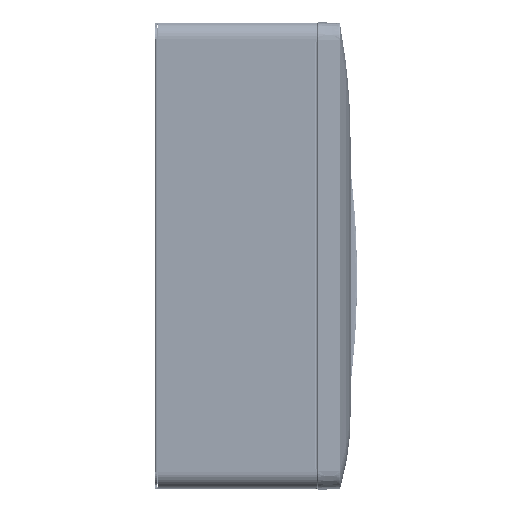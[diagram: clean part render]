
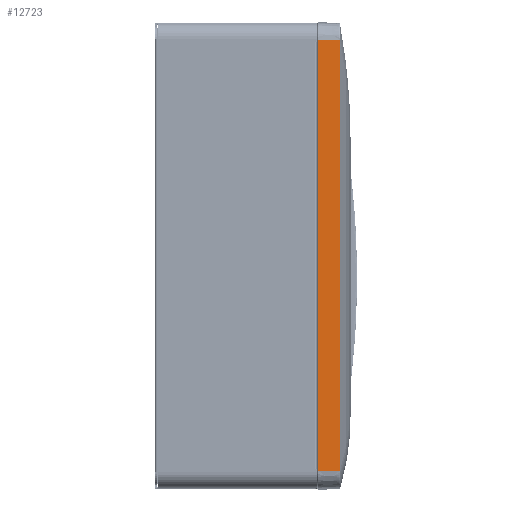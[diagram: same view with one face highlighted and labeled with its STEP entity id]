
A CAD part, top view. The second image highlights one B-rep face of the part: STEP entity #12723.
In plain terms, the highlighted planar face has unit normal (0.035, 0, 0.999) as drawn and (-0.999, 0, 0.035) by its records, which use the part's own axes.
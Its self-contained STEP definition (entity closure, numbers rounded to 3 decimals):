
#9678 = ORIENTED_EDGE ( 'NONE', *, *, #72566, .T. ) ;
#11116 = CARTESIAN_POINT ( 'NONE',  ( -173.635, 98.288, 10.443 ) ) ;
#12673 = EDGE_CURVE ( 'NONE', #158879, #78416, #41875, .T. ) ;
#12723 = ADVANCED_FACE ( 'NONE', ( #104848 ), #176276, .T. ) ;
#19543 = EDGE_LOOP ( 'NONE', ( #143763, #9678, #21038, #55236 ) ) ;
#20011 = VERTEX_POINT ( 'NONE', #74393 ) ;
#21038 = ORIENTED_EDGE ( 'NONE', *, *, #12673, .T. ) ;
#22577 = EDGE_CURVE ( 'NONE', #70931, #20011, #106473, .T. ) ;
#24896 = AXIS2_PLACEMENT_3D ( 'NONE', #160511, #49199, #89106 ) ;
#25020 = CARTESIAN_POINT ( 'NONE',  ( -173.635, -91.359, 10.462 ) ) ;
#28886 = DIRECTION ( 'NONE',  ( -0.035, 0., -0.999 ) ) ;
#37129 = CARTESIAN_POINT ( 'NONE',  ( -173.635, -94.952, 10.462 ) ) ;
#38959 = CARTESIAN_POINT ( 'NONE',  ( -173.635, -69.803, 10.463 ) ) ;
#38974 = CARTESIAN_POINT ( 'NONE',  ( -173.636, 98.545, 10.432 ) ) ;
#41875 = LINE ( 'NONE', #128128, #72154 ) ;
#47165 = EDGE_CURVE ( 'NONE', #78416, #70931, #90155, .T. ) ;
#49199 = DIRECTION ( 'NONE',  ( -0.999, 0., 0.035 ) ) ;
#51953 = CARTESIAN_POINT ( 'NONE',  ( -173.635, 97.518, 10.463 ) ) ;
#52875 = CARTESIAN_POINT ( 'NONE',  ( -173.635, -98.545, 10.449 ) ) ;
#55236 = ORIENTED_EDGE ( 'NONE', *, *, #47165, .T. ) ;
#60316 = VECTOR ( 'NONE', #104060, 1000. ) ;
#62311 = CARTESIAN_POINT ( 'NONE',  ( -173.975, -107., 0.725 ) ) ;
#65838 = CARTESIAN_POINT ( 'NONE',  ( -173.635, -97.518, 10.462 ) ) ;
#66772 = CARTESIAN_POINT ( 'NONE',  ( -173.635, 84.174, 10.463 ) ) ;
#70931 = VERTEX_POINT ( 'NONE', #123202 ) ;
#72154 = VECTOR ( 'NONE', #28886, 1000. ) ;
#72566 = EDGE_CURVE ( 'NONE', #20011, #158879, #140095, .T. ) ;
#74393 = CARTESIAN_POINT ( 'NONE',  ( -173.635, -98.545, 10.449 ) ) ;
#78416 = VERTEX_POINT ( 'NONE', #158345 ) ;
#79782 = CARTESIAN_POINT ( 'NONE',  ( -173.635, 69.803, 10.463 ) ) ;
#81600 = CARTESIAN_POINT ( 'NONE',  ( -173.635, 91.359, 10.463 ) ) ;
#89106 = DIRECTION ( 'NONE',  ( 0.035, 0., 0.999 ) ) ;
#90155 = LINE ( 'NONE', #62311, #60316 ) ;
#93696 = CARTESIAN_POINT ( 'NONE',  ( -173.635, -98.032, 10.466 ) ) ;
#94603 = CARTESIAN_POINT ( 'NONE',  ( -173.635, -16.424, 10.465 ) ) ;
#95507 = CARTESIAN_POINT ( 'NONE',  ( -173.635, 57.484, 10.464 ) ) ;
#104060 = DIRECTION ( 'NONE',  ( 0., -1., 0. ) ) ;
#104848 = FACE_OUTER_BOUND ( 'NONE', #19543, .T. ) ;
#105553 = CARTESIAN_POINT ( 'NONE',  ( -174., -98.545, 0. ) ) ;
#106473 = LINE ( 'NONE', #105553, #110993 ) ;
#109460 = CARTESIAN_POINT ( 'NONE',  ( -173.635, 97.262, 10.462 ) ) ;
#110993 = VECTOR ( 'NONE', #137955, 1000. ) ;
#121554 = CARTESIAN_POINT ( 'NONE',  ( -173.635, 98.032, 10.452 ) ) ;
#122473 = CARTESIAN_POINT ( 'NONE',  ( -173.636, 98.545, 10.432 ) ) ;
#123202 = CARTESIAN_POINT ( 'NONE',  ( -173.975, -98.545, 0.725 ) ) ;
#128128 = CARTESIAN_POINT ( 'NONE',  ( -174., 98.545, 0. ) ) ;
#135446 = CARTESIAN_POINT ( 'NONE',  ( -173.635, -57.484, 10.464 ) ) ;
#136359 = CARTESIAN_POINT ( 'NONE',  ( -173.635, 94.952, 10.463 ) ) ;
#137955 = DIRECTION ( 'NONE',  ( 0.035, 0., 0.999 ) ) ;
#138180 = CARTESIAN_POINT ( 'NONE',  ( -173.635, 96.492, 10.463 ) ) ;
#140095 = B_SPLINE_CURVE_WITH_KNOTS ( 'NONE', 3,
 ( #52875, #93696, #65838, #152107, #37129, #25020, #179032, #38959, #135446, #179966, #94603, #177211, #166931, #95507, #79782, #66772, #81600, #136359, #138180, #109460, #51953, #121554, #11116, #122473 ),
 .UNSPECIFIED., .F., .F.,
 ( 4, 2, 1, 1, 1, 1, 2, 2, 2, 1, 1, 1, 1, 2, 2, 4 ),
 ( 0., 0.002, 0.003, 0.006, 0.012, 0.025, 0.049, 0.099, 0.148, 0.172, 0.185, 0.191, 0.194, 0.196, 0.196, 0.197 ),
 .UNSPECIFIED. ) ;
#143763 = ORIENTED_EDGE ( 'NONE', *, *, #22577, .T. ) ;
#152107 = CARTESIAN_POINT ( 'NONE',  ( -173.635, -96.492, 10.462 ) ) ;
#158345 = CARTESIAN_POINT ( 'NONE',  ( -173.975, 98.545, 0.725 ) ) ;
#158879 = VERTEX_POINT ( 'NONE', #38974 ) ;
#160511 = CARTESIAN_POINT ( 'NONE',  ( -174., -107., 0. ) ) ;
#166931 = CARTESIAN_POINT ( 'NONE',  ( -173.635, 32.848, 10.464 ) ) ;
#176276 = PLANE ( 'NONE',  #24896 ) ;
#177211 = CARTESIAN_POINT ( 'NONE',  ( -173.635, 16.424, 10.465 ) ) ;
#179032 = CARTESIAN_POINT ( 'NONE',  ( -173.635, -84.174, 10.463 ) ) ;
#179966 = CARTESIAN_POINT ( 'NONE',  ( -173.635, -32.848, 10.464 ) ) ;
